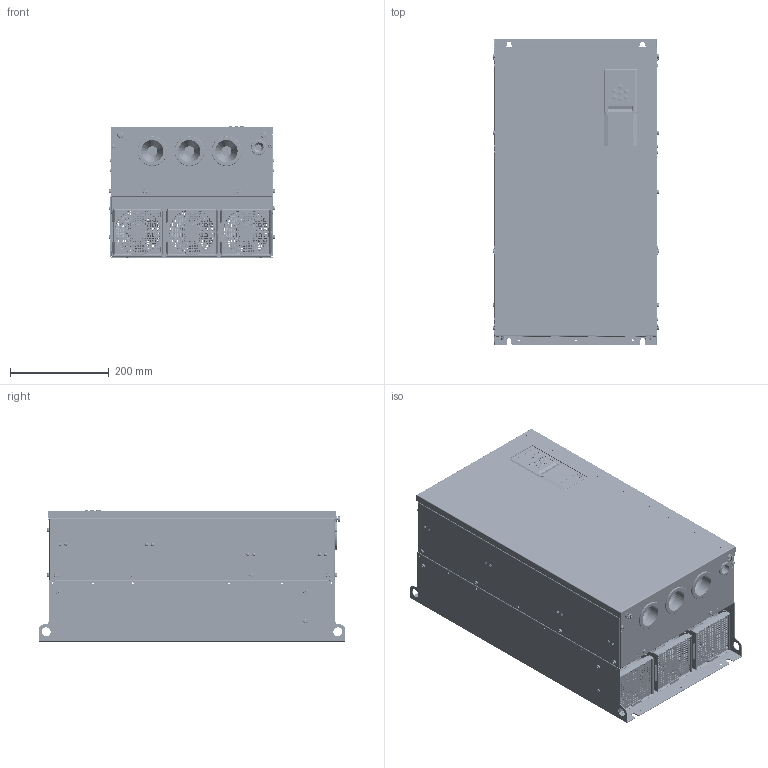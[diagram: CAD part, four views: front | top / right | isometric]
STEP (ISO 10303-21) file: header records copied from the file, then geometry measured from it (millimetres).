
FILE_DESCRIPTION((''),'2;1');
FILE_NAME('D6-DRIVE_REV00_ASM','2022-03-02T10:24:53',('wendong.luo'),(''),'CREO PARAMETRIC BY PTC INC, 2018100','CREO PARAMETRIC BY PTC INC, 2018100','');
FILE_SCHEMA(('CONFIG_CONTROL_DESIGN','GEOMETRIC_VALIDATION_PROPERTIES_MIM'));
Products named in the file (37): D6-MECHANICAL-PART; E0400071; M0204014; M0204013; RIVETING-NUT-4_; M0202008; M0202010; M0202003; M0202001; M3-SPRING; M3-WASHER; M0202001_ASM; D6-FASTEN_ASM; M0100015; M0202014; M0104030; M0104033; E0100084; E0400023; E0400008; E0400009; E0400001; E0400011; E0100084_ASM; M0203006; M0203025; M0203032; M0104034; CU_NEW_ASM; M0100039; M4-MOUNTING-SCREW-RIVET; M0100039_ASM; M0104021; FAN9238; AIR-IN-FILTER; FAN-ASM-9238_ASM; D6-DRIVE_REV00_ASM
Assembly tree (95 placements, depth 4):
  D6-DRIVE_REV00_ASM
    D6-MECHANICAL-PART
    E0400071
    M0204014  x3
    M0204013
    D6-FASTEN_ASM
      RIVETING-NUT-4_  x16
      M0202008  x23
      M0202010  x2
      M0202003  x14
      M0202001_ASM
        M0202001
        M3-SPRING
        M3-WASHER
    M0100015  x2
    M0202014  x2
    M0104030
    CU_NEW_ASM
      M0104033
      E0100084_ASM
        E0100084
        E0400023
        E0400008
        E0400009  x2
        E0400001
        E0400011
      M0203006
      M0203025
      M0203032
      M0104034
    M0100039_ASM
      M0100039
      M4-MOUNTING-SCREW-RIVET  x2
    FAN-ASM-9238_ASM  x3
      M0104021
      FAN9238
      AIR-IN-FILTER
Bounding box: 335.7 x 620 x 265.65 mm (x, y, z)
Volume: 2744204.5 mm3; surface area: 2839438 mm2
Topology: 121 solids, 154 shells, 26652 faces, 72828 edges, 47163 vertices
Faces by surface type: plane 16340, cylinder 4834, bspline 2142, extrusion 1616, cone 923, torus 664, sphere 133
Entity records: 664656 total; most frequent: CARTESIAN_POINT 164688, ORIENTED_EDGE 84130, DIRECTION 69181, EDGE_CURVE 42095, PRESENTATION_STYLE_ASSIGNMENT 31567, VECTOR 30597, STYLED_ITEM 29362, CURVE_STYLE 29307
